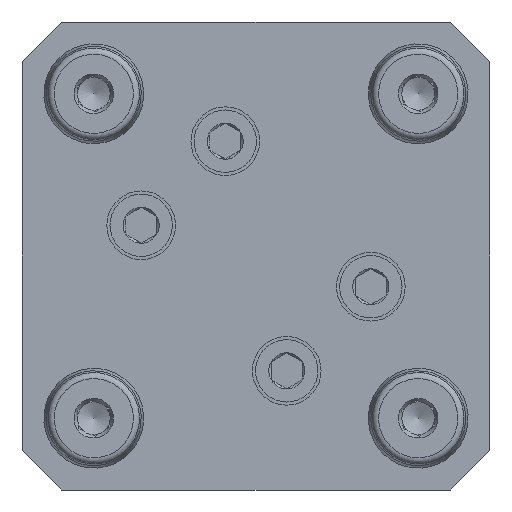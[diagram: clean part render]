
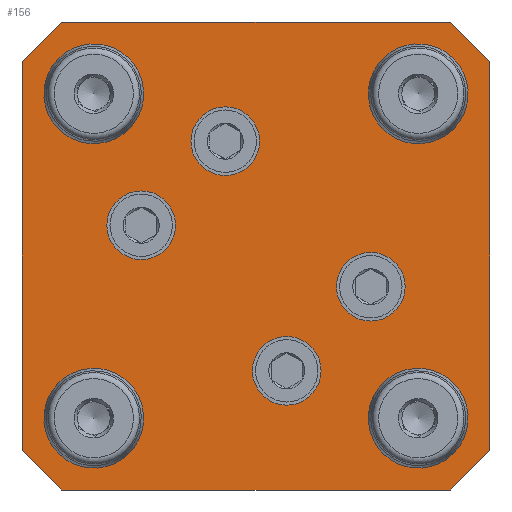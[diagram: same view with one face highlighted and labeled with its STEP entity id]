
A CAD part, front view. The second image highlights one B-rep face of the part: STEP entity #156.
In plain terms, the highlighted planar face has unit normal (0, -1, 0) as drawn and (0, 0, -1) by its records, which use the part's own axes.
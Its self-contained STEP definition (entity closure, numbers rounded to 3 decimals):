
#44 = DIRECTION ( 'NONE',  ( -1., 0., 0. ) ) ;
#124 = AXIS2_PLACEMENT_3D ( 'NONE', #7585, #8556, #7746 ) ;
#153 = EDGE_LOOP ( 'NONE', ( #4091 ) ) ;
#156 = ADVANCED_FACE ( 'NONE', ( #1168, #10219, #301, #5229, #1012, #10064, #2627, #2734, #1106 ), #1967, .F. ) ;
#213 = LINE ( 'NONE', #9193, #5813 ) ;
#262 = DIRECTION ( 'NONE',  ( -1., 0., 0. ) ) ;
#301 = FACE_BOUND ( 'NONE', #3045, .T. ) ;
#445 = VECTOR ( 'NONE', #3470, 1000. ) ;
#483 = EDGE_LOOP ( 'NONE', ( #3245 ) ) ;
#554 = ORIENTED_EDGE ( 'NONE', *, *, #2028, .F. ) ;
#621 = ORIENTED_EDGE ( 'NONE', *, *, #8014, .F. ) ;
#622 = ORIENTED_EDGE ( 'NONE', *, *, #2218, .F. ) ;
#836 = ORIENTED_EDGE ( 'NONE', *, *, #908, .F. ) ;
#877 = LINE ( 'NONE', #9804, #9930 ) ;
#908 = EDGE_CURVE ( 'NONE', #1031, #1031, #5436, .T. ) ;
#949 = AXIS2_PLACEMENT_3D ( 'NONE', #5142, #6614, #9835 ) ;
#967 = VERTEX_POINT ( 'NONE', #6828 ) ;
#1012 = FACE_BOUND ( 'NONE', #5501, .T. ) ;
#1026 = ORIENTED_EDGE ( 'NONE', *, *, #1635, .F. ) ;
#1031 = VERTEX_POINT ( 'NONE', #6686 ) ;
#1063 = DIRECTION ( 'NONE',  ( -1., 0., 0. ) ) ;
#1106 = FACE_OUTER_BOUND ( 'NONE', #1310, .T. ) ;
#1111 = EDGE_CURVE ( 'NONE', #8964, #9477, #877, .T. ) ;
#1168 = FACE_BOUND ( 'NONE', #483, .T. ) ;
#1240 = EDGE_CURVE ( 'NONE', #9051, #1396, #9258, .T. ) ;
#1241 = CARTESIAN_POINT ( 'NONE',  ( -31.15, -37.5, 0. ) ) ;
#1310 = EDGE_LOOP ( 'NONE', ( #5587, #622, #554, #9244, #3659, #621, #8385, #8047 ) ) ;
#1396 = VERTEX_POINT ( 'NONE', #10571 ) ;
#1547 = CARTESIAN_POINT ( 'NONE',  ( 31.15, 37.5, 0. ) ) ;
#1605 = CARTESIAN_POINT ( 'NONE',  ( -0.569, -18.401, 0. ) ) ;
#1635 = EDGE_CURVE ( 'NONE', #1938, #1938, #6862, .T. ) ;
#1641 = LINE ( 'NONE', #4967, #5734 ) ;
#1721 = CARTESIAN_POINT ( 'NONE',  ( -32.008, -26., 0. ) ) ;
#1929 = DIRECTION ( 'NONE',  ( 0., 0., -1. ) ) ;
#1938 = VERTEX_POINT ( 'NONE', #3635 ) ;
#1967 = PLANE ( 'NONE',  #124 ) ;
#2028 = EDGE_CURVE ( 'NONE', #1396, #8326, #213, .T. ) ;
#2042 = DIRECTION ( 'NONE',  ( -1., 0., 0. ) ) ;
#2047 = EDGE_CURVE ( 'NONE', #9355, #9355, #8086, .T. ) ;
#2218 = EDGE_CURVE ( 'NONE', #8326, #9625, #1641, .T. ) ;
#2369 = VERTEX_POINT ( 'NONE', #1605 ) ;
#2592 = CARTESIAN_POINT ( 'NONE',  ( 26., -26., 0. ) ) ;
#2607 = CARTESIAN_POINT ( 'NONE',  ( 37.5, -31.15, 0. ) ) ;
#2627 = FACE_BOUND ( 'NONE', #9606, .T. ) ;
#2704 = DIRECTION ( 'NONE',  ( 0., -1., 0. ) ) ;
#2734 = FACE_BOUND ( 'NONE', #3266, .T. ) ;
#2749 = CARTESIAN_POINT ( 'NONE',  ( 31.15, 37.5, 0. ) ) ;
#2784 = CARTESIAN_POINT ( 'NONE',  ( 31.15, -37.5, 0. ) ) ;
#2951 = EDGE_CURVE ( 'NONE', #7651, #9051, #9190, .T. ) ;
#3045 = EDGE_LOOP ( 'NONE', ( #6164 ) ) ;
#3245 = ORIENTED_EDGE ( 'NONE', *, *, #8718, .F. ) ;
#3266 = EDGE_LOOP ( 'NONE', ( #10353 ) ) ;
#3370 = CIRCLE ( 'NONE', #4968, 6.008 ) ;
#3470 = DIRECTION ( 'NONE',  ( -0.707, -0.707, 0. ) ) ;
#3635 = CARTESIAN_POINT ( 'NONE',  ( 12.901, -4.931, 0. ) ) ;
#3659 = ORIENTED_EDGE ( 'NONE', *, *, #2951, .F. ) ;
#3758 = LINE ( 'NONE', #9645, #7541 ) ;
#3824 = DIRECTION ( 'NONE',  ( -0.707, 0.707, 0. ) ) ;
#3903 = EDGE_LOOP ( 'NONE', ( #5138 ) ) ;
#3956 = CARTESIAN_POINT ( 'NONE',  ( -26., -26., 0. ) ) ;
#4091 = ORIENTED_EDGE ( 'NONE', *, *, #9662, .F. ) ;
#4113 = CARTESIAN_POINT ( 'NONE',  ( 37.5, -31.15, 0. ) ) ;
#4346 = CARTESIAN_POINT ( 'NONE',  ( -10.431, 18.401, 0. ) ) ;
#4388 = DIRECTION ( 'NONE',  ( 0., 0., -1. ) ) ;
#4657 = CIRCLE ( 'NONE', #8965, 5.5 ) ;
#4894 = DIRECTION ( 'NONE',  ( 0., 1., 0. ) ) ;
#4967 = CARTESIAN_POINT ( 'NONE',  ( -31.15, -37.5, 0. ) ) ;
#4968 = AXIS2_PLACEMENT_3D ( 'NONE', #3956, #7266, #6444 ) ;
#5075 = ORIENTED_EDGE ( 'NONE', *, *, #10221, .F. ) ;
#5101 = DIRECTION ( 'NONE',  ( 0., 0., -1. ) ) ;
#5138 = ORIENTED_EDGE ( 'NONE', *, *, #7430, .F. ) ;
#5142 = CARTESIAN_POINT ( 'NONE',  ( -4.931, 18.401, 0. ) ) ;
#5229 = FACE_BOUND ( 'NONE', #7128, .T. ) ;
#5252 = CARTESIAN_POINT ( 'NONE',  ( -31.15, 37.5, 0. ) ) ;
#5285 = CIRCLE ( 'NONE', #9940, 6.008 ) ;
#5357 = CARTESIAN_POINT ( 'NONE',  ( 26., 26., 0. ) ) ;
#5364 = CARTESIAN_POINT ( 'NONE',  ( -18.401, 4.931, 0. ) ) ;
#5436 = CIRCLE ( 'NONE', #5968, 6.008 ) ;
#5501 = EDGE_LOOP ( 'NONE', ( #5075 ) ) ;
#5579 = EDGE_CURVE ( 'NONE', #2369, #2369, #4657, .T. ) ;
#5587 = ORIENTED_EDGE ( 'NONE', *, *, #8442, .F. ) ;
#5734 = VECTOR ( 'NONE', #8283, 1000. ) ;
#5813 = VECTOR ( 'NONE', #2704, 1000. ) ;
#5827 = LINE ( 'NONE', #4113, #10461 ) ;
#5968 = AXIS2_PLACEMENT_3D ( 'NONE', #5357, #7412, #2042 ) ;
#6018 = CARTESIAN_POINT ( 'NONE',  ( 37.5, 31.15, 0. ) ) ;
#6164 = ORIENTED_EDGE ( 'NONE', *, *, #5579, .F. ) ;
#6363 = LINE ( 'NONE', #8116, #9742 ) ;
#6408 = VECTOR ( 'NONE', #44, 1000. ) ;
#6418 = VERTEX_POINT ( 'NONE', #2784 ) ;
#6444 = DIRECTION ( 'NONE',  ( -1., 0., 0. ) ) ;
#6516 = AXIS2_PLACEMENT_3D ( 'NONE', #6890, #1929, #262 ) ;
#6563 = EDGE_CURVE ( 'NONE', #6418, #8964, #5827, .T. ) ;
#6614 = DIRECTION ( 'NONE',  ( 0., 0., -1. ) ) ;
#6620 = CARTESIAN_POINT ( 'NONE',  ( -32.008, 26., 0. ) ) ;
#6686 = CARTESIAN_POINT ( 'NONE',  ( 19.992, 26., 0. ) ) ;
#6828 = CARTESIAN_POINT ( 'NONE',  ( -23.901, 4.931, 0. ) ) ;
#6862 = CIRCLE ( 'NONE', #6516, 5.5 ) ;
#6879 = CARTESIAN_POINT ( 'NONE',  ( -26., 26., 0. ) ) ;
#6890 = CARTESIAN_POINT ( 'NONE',  ( 18.401, -4.931, 0. ) ) ;
#6955 = DIRECTION ( 'NONE',  ( 0., 0., -1. ) ) ;
#6961 = CARTESIAN_POINT ( 'NONE',  ( -37.5, -31.15, 0. ) ) ;
#7052 = DIRECTION ( 'NONE',  ( 0., 0., -1. ) ) ;
#7128 = EDGE_LOOP ( 'NONE', ( #1026 ) ) ;
#7266 = DIRECTION ( 'NONE',  ( 0., 0., -1. ) ) ;
#7393 = CIRCLE ( 'NONE', #10146, 5.5 ) ;
#7412 = DIRECTION ( 'NONE',  ( 0., 0., -1. ) ) ;
#7419 = DIRECTION ( 'NONE',  ( 0.707, 0.707, 0. ) ) ;
#7430 = EDGE_CURVE ( 'NONE', #9237, #9237, #5285, .T. ) ;
#7541 = VECTOR ( 'NONE', #8789, 1000. ) ;
#7585 = CARTESIAN_POINT ( 'NONE',  ( 0., 0., 0. ) ) ;
#7604 = DIRECTION ( 'NONE',  ( -1., 0., 0. ) ) ;
#7651 = VERTEX_POINT ( 'NONE', #1547 ) ;
#7667 = CARTESIAN_POINT ( 'NONE',  ( -31.15, 37.5, 0. ) ) ;
#7746 = DIRECTION ( 'NONE',  ( 1., 0., 0. ) ) ;
#7872 = CARTESIAN_POINT ( 'NONE',  ( 19.992, -26., 0. ) ) ;
#8014 = EDGE_CURVE ( 'NONE', #9477, #7651, #6363, .T. ) ;
#8047 = ORIENTED_EDGE ( 'NONE', *, *, #6563, .F. ) ;
#8086 = CIRCLE ( 'NONE', #9266, 6.008 ) ;
#8116 = CARTESIAN_POINT ( 'NONE',  ( 37.5, 31.15, 0. ) ) ;
#8283 = DIRECTION ( 'NONE',  ( 0.707, -0.707, 0. ) ) ;
#8326 = VERTEX_POINT ( 'NONE', #6961 ) ;
#8385 = ORIENTED_EDGE ( 'NONE', *, *, #1111, .F. ) ;
#8442 = EDGE_CURVE ( 'NONE', #9625, #6418, #3758, .T. ) ;
#8517 = VERTEX_POINT ( 'NONE', #4346 ) ;
#8556 = DIRECTION ( 'NONE',  ( 0., 0., 1. ) ) ;
#8682 = DIRECTION ( 'NONE',  ( -1., 0., 0. ) ) ;
#8718 = EDGE_CURVE ( 'NONE', #8517, #8517, #10301, .T. ) ;
#8729 = DIRECTION ( 'NONE',  ( -1., 0., 0. ) ) ;
#8789 = DIRECTION ( 'NONE',  ( 1., 0., 0. ) ) ;
#8964 = VERTEX_POINT ( 'NONE', #2607 ) ;
#8965 = AXIS2_PLACEMENT_3D ( 'NONE', #9574, #6955, #8729 ) ;
#9051 = VERTEX_POINT ( 'NONE', #7667 ) ;
#9190 = LINE ( 'NONE', #2749, #6408 ) ;
#9193 = CARTESIAN_POINT ( 'NONE',  ( -37.5, 31.15, 0. ) ) ;
#9237 = VERTEX_POINT ( 'NONE', #6620 ) ;
#9244 = ORIENTED_EDGE ( 'NONE', *, *, #1240, .F. ) ;
#9258 = LINE ( 'NONE', #5252, #445 ) ;
#9266 = AXIS2_PLACEMENT_3D ( 'NONE', #2592, #5101, #7604 ) ;
#9355 = VERTEX_POINT ( 'NONE', #7872 ) ;
#9477 = VERTEX_POINT ( 'NONE', #6018 ) ;
#9574 = CARTESIAN_POINT ( 'NONE',  ( 4.931, -18.401, 0. ) ) ;
#9606 = EDGE_LOOP ( 'NONE', ( #836 ) ) ;
#9625 = VERTEX_POINT ( 'NONE', #1241 ) ;
#9645 = CARTESIAN_POINT ( 'NONE',  ( 31.15, -37.5, 0. ) ) ;
#9662 = EDGE_CURVE ( 'NONE', #967, #967, #7393, .T. ) ;
#9742 = VECTOR ( 'NONE', #3824, 1000. ) ;
#9804 = CARTESIAN_POINT ( 'NONE',  ( 37.5, 31.15, 0. ) ) ;
#9835 = DIRECTION ( 'NONE',  ( -1., 0., 0. ) ) ;
#9930 = VECTOR ( 'NONE', #4894, 1000. ) ;
#9940 = AXIS2_PLACEMENT_3D ( 'NONE', #6879, #4388, #1063 ) ;
#9957 = VERTEX_POINT ( 'NONE', #1721 ) ;
#10064 = FACE_BOUND ( 'NONE', #3903, .T. ) ;
#10146 = AXIS2_PLACEMENT_3D ( 'NONE', #5364, #7052, #8682 ) ;
#10219 = FACE_BOUND ( 'NONE', #153, .T. ) ;
#10221 = EDGE_CURVE ( 'NONE', #9957, #9957, #3370, .T. ) ;
#10301 = CIRCLE ( 'NONE', #949, 5.5 ) ;
#10353 = ORIENTED_EDGE ( 'NONE', *, *, #2047, .F. ) ;
#10461 = VECTOR ( 'NONE', #7419, 1000. ) ;
#10571 = CARTESIAN_POINT ( 'NONE',  ( -37.5, 31.15, 0. ) ) ;
